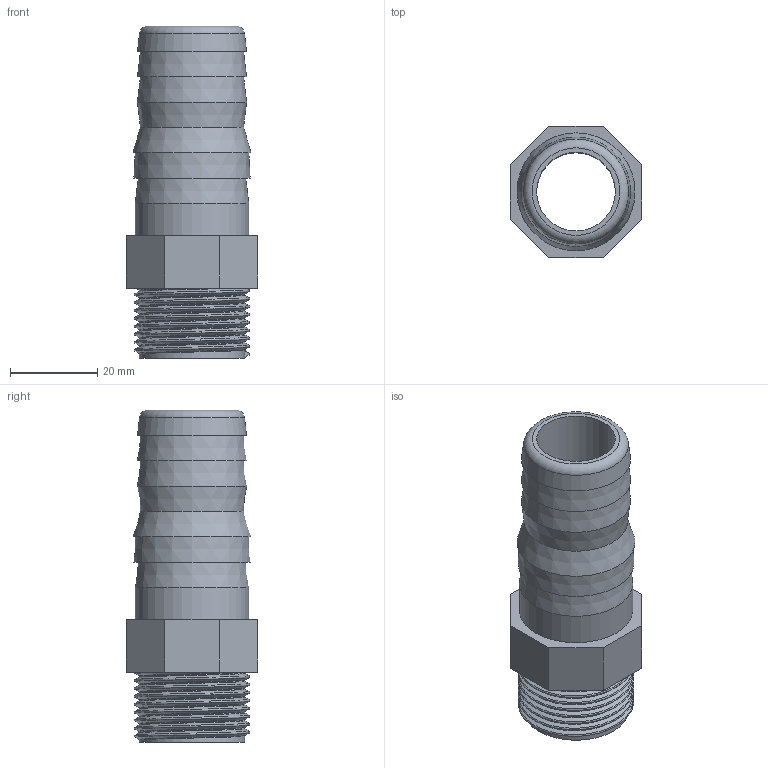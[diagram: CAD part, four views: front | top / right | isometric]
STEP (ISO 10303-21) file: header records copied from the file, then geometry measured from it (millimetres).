
FILE_DESCRIPTION(/* description */ ('PVC portagomma filettato BSP maschio'),/* implementation_level */ '2;1');
FILE_NAME(/* name */ 'C:\Users\POLYPIPE\Desktop\DATASET INVENTOR\LIBRERIA EFFAST\RACCORDI 3DxWEB\RER\3D_RERPGE\3D_RERPGE025C.stp',/* time_stamp */ '2018-01-19T16:51:31+01:00',/* author */ ('POLYPIPE'),/* organization */ ('Polypipe Italia s.r.l.'),/* preprocessor_version */ 'ST-DEVELOPER v16.1',/* originating_system */ 'Autodesk Inventor 2016',/* authorisation */ '');
FILE_SCHEMA (('CONFIG_CONTROL_DESIGN'));
Length unit declared in the file: millimetre
Products named in the file (1): 3D_RERPGE025C
Bounding box: 30 x 30 x 76 mm (x, y, z)
Volume: 21238.8 mm3; surface area: 12447.2 mm2
Topology: 1 solids, 1 shells, 33 faces, 69 edges, 44 vertices
Faces by surface type: plane 17, cone 7, bspline 5, cylinder 3, torus 1
Full cylindrical faces by diameter (mm): 18 x1, 24.117 x1, 26 x1
Entity records: 4228 total; most frequent: CARTESIAN_POINT 3556, DIRECTION 125, ORIENTED_EDGE 116, EDGE_CURVE 58, EDGE_LOOP 51, AXIS2_PLACEMENT_3D 49, VERTEX_POINT 43, FACE_OUTER_BOUND 33
